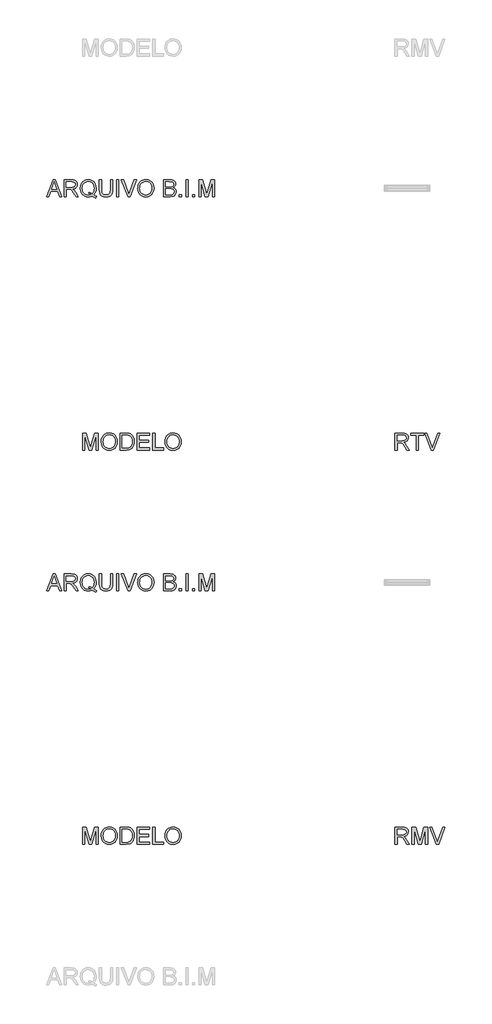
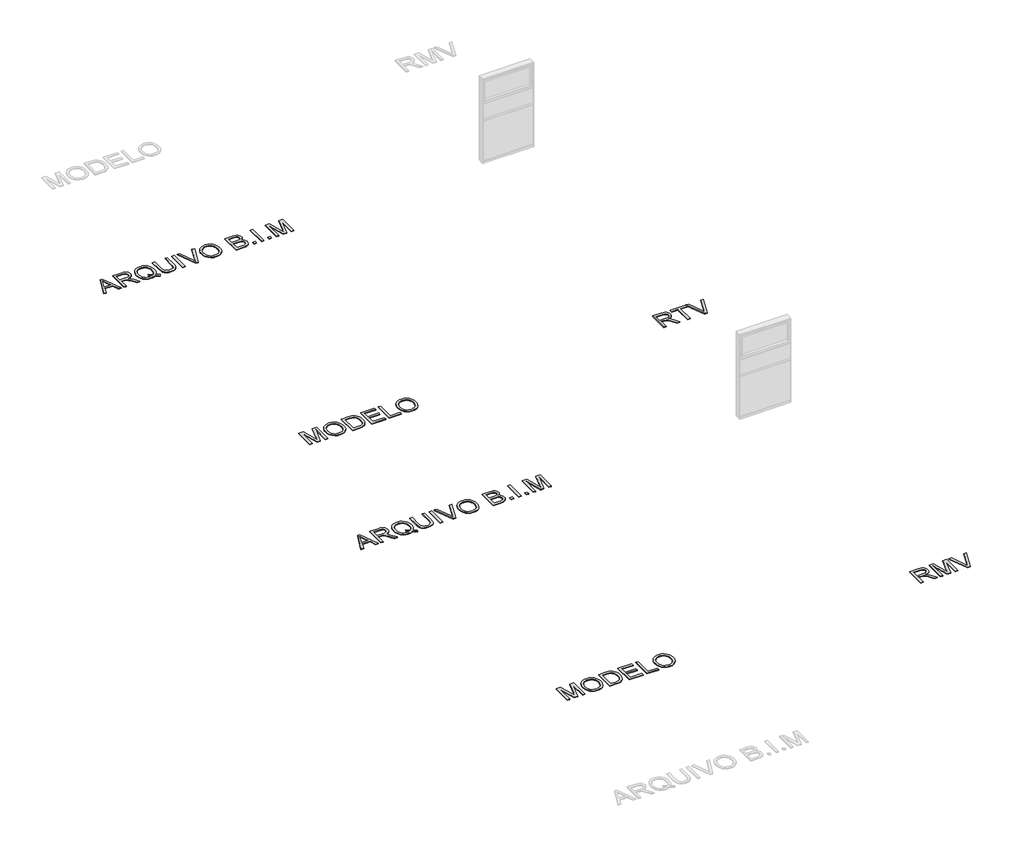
# One storey, part 7 of 15: 6 proxies.
"""IFC4 building model written with IfcOpenShell, lengths in millimetres."""

import ifcopenshell
import ifcopenshell.guid

model = None  # the IFC model being written
_history = None  # IfcOwnerHistory: only IFC2X3 demands one
_inside = {}  # id of a spatial element -> (the spatial element, [elements in it])
_under = {}  # id of a project, library or spatial element -> (it, [spatial elements below it])
_declared = {}  # id of a project -> (the project, [libraries it declares])
_typed = {}  # id of a type object -> (the type object, [elements of that type])
_made_of = {}  # id of a material, layer set ... -> (it, [elements and type objects made of it])


def new_model(schema):
    """Start an empty IFC model of exactly this schema.

    Asked for "IFC4X3", IfcOpenShell would pick the latest addendum, in which some entities
    have other attributes; the version numbers below select the first issue.
    IFC2X3 requires an IfcOwnerHistory on every rooted entity: one is made here for all.
    """
    global model, _history
    if schema == "IFC4X3":
        model = ifcopenshell.file(schema_version=(4, 3, 0, 0))
    else:
        model = ifcopenshell.file(schema=schema)
    _inside.clear()
    _under.clear()
    _declared.clear()
    _typed.clear()
    _made_of.clear()
    _history = None
    if model.schema == "IFC2X3":
        org = make("IfcOrganization", Name="unknown")
        user = make(
            "IfcPersonAndOrganization",
            ThePerson=make("IfcPerson", FamilyName="unknown"),
            TheOrganization=org,
        )
        app = make(
            "IfcApplication",
            ApplicationDeveloper=org,
            Version="unknown",
            ApplicationFullName="unknown",
            ApplicationIdentifier="unknown",
        )
        _history = make(
            "IfcOwnerHistory",
            OwningUser=user,
            OwningApplication=app,
            ChangeAction="ADDED",
            CreationDate=0,
        )
    return model


def make(cls, **values):
    """One entity of the class cls with the attributes given. An attribute that is None is left unset."""
    return model.create_entity(
        cls, **{name: value for name, value in values.items() if value is not None}
    )


def rooted(cls, **values):
    """An entity with a GlobalId (a new one), such as an element, a storey or a relation."""
    return make(cls, GlobalId=ifcopenshell.guid.new(), OwnerHistory=_history, **values)


def si_unit(unit_type, name, prefix=None):
    """IfcSIUnit, for example si_unit("LENGTHUNIT", "METRE", prefix="MILLI")."""
    return make("IfcSIUnit", UnitType=unit_type, Prefix=prefix, Name=name)


def assignment(units):
    """IfcUnitAssignment: the units of a project."""
    return None if units is None else make("IfcUnitAssignment", Units=units)


def point(xyz):
    """IfcCartesianPoint."""
    return None if xyz is None else make("IfcCartesianPoint", Coordinates=xyz)


def direction(xyz):
    """IfcDirection."""
    return None if xyz is None else make("IfcDirection", DirectionRatios=xyz)


def frame(location, z_axis=None, x_axis=None):
    """IfcAxis2Placement3D, a coordinate frame: its origin and axes. An axis left out is left unset."""
    return make(
        "IfcAxis2Placement3D",
        Location=point(location),
        Axis=direction(z_axis),
        RefDirection=direction(x_axis),
    )


def origin():
    """The frame at (0, 0, 0) with its axes left unset."""
    return frame((0.0, 0.0, 0.0))


def origin_with_axes():
    """The frame at (0, 0, 0) with the z axis (0, 0, 1) and the x axis (1, 0, 0) written out."""
    return frame((0.0, 0.0, 0.0), z_axis=(0.0, 0.0, 1.0), x_axis=(1.0, 0.0, 0.0))


def place(relative_to, where):
    """IfcLocalPlacement: puts the frame where relative to a parent placement (None: the world)."""
    return make(
        "IfcLocalPlacement", PlacementRelTo=relative_to, RelativePlacement=where
    )


def context(
    kind, dimensions, precision=None, world=None, true_north=None, identifier=None
):
    """IfcGeometricRepresentationContext, for example the 3D "Model" context."""
    return make(
        "IfcGeometricRepresentationContext",
        ContextIdentifier=identifier,
        ContextType=kind,
        CoordinateSpaceDimension=dimensions,
        Precision=precision,
        WorldCoordinateSystem=world,
        TrueNorth=true_north,
    )


def project(units=None, contexts=None):
    """IfcProject with its units and contexts."""
    return rooted(
        "IfcProject",
        Name="project",
        RepresentationContexts=contexts,
        UnitsInContext=assignment(units),
    )


def spatial(cls, under=None, at=None, **own):
    """A site, building, storey or space (cls), placed at a placement, below another one or the project."""
    s = rooted(cls, ObjectPlacement=at, **own)
    if under is not None:
        _under.setdefault(under.id(), (under, []))[1].append(s)
    return s


def polyline(points):
    """IfcPolyline through the points."""
    return make("IfcPolyline", Points=[point(p) for p in points])


def outline(outer, holes=None, kind="AREA"):
    """IfcArbitraryClosedProfileDef: a profile drawn as a closed curve; with holes, ...WithVoids."""
    if holes is None:
        return make("IfcArbitraryClosedProfileDef", ProfileType=kind, OuterCurve=outer)
    return make(
        "IfcArbitraryProfileDefWithVoids",
        ProfileType=kind,
        OuterCurve=outer,
        InnerCurves=holes,
    )


def extrude(swept, where, along, depth):
    """IfcExtrudedAreaSolid: the profile swept, set in the frame where, extruded along a direction by depth."""
    return make(
        "IfcExtrudedAreaSolid",
        SweptArea=swept,
        Position=where,
        ExtrudedDirection=direction(along),
        Depth=depth,
    )


def shape(context_of_items, identifier, shape_type, items):
    """IfcShapeRepresentation: the items that make up one representation, for example the "Body"."""
    return make(
        "IfcShapeRepresentation",
        ContextOfItems=context_of_items,
        RepresentationIdentifier=identifier,
        RepresentationType=shape_type,
        Items=items,
    )


def made_of(thing, what):
    """Note that an element or type object is made of a material, layer set ...; save() writes the relation."""
    if what is not None:
        _made_of.setdefault(what.id(), (what, []))[1].append(thing)
    return thing


def element(
    cls,
    number,
    at=None,
    inside=None,
    cuts=None,
    type_object=None,
    material=None,
    context=None,
    identifier="Body",
    shape_type=None,
    held_by="IfcProductDefinitionShape",
    body=None,
    shapes=None,
    **own,
):
    """One element of the class cls, such as IfcWall. Its Tag is "e" and its number.

    at: its placement. inside: the storey or other place that contains it. cuts: it is an
    opening in that element (IfcRelVoidsElement). A single representation is given by context,
    identifier, shape_type and body (its items); several are given by shapes. held_by: the class
    of the entity that holds the representations. save() writes the other relations.
    """
    e = rooted(cls, Tag="e%d" % number, ObjectPlacement=at, **own)
    if body is not None:
        shapes = [shape(context, identifier, shape_type, body)]
    if shapes is not None:
        e.Representation = make(held_by, Representations=shapes)
    if inside is not None:
        _inside.setdefault(inside.id(), (inside, []))[1].append(e)
    if cuts is not None:
        rooted(
            "IfcRelVoidsElement", RelatingBuildingElement=cuts, RelatedOpeningElement=e
        )
    if type_object is not None:
        _typed.setdefault(type_object.id(), (type_object, []))[1].append(e)
    return made_of(e, material)


def aggregate(whole, parts):
    """IfcRelAggregates: a whole, such as a stair, and the parts it consists of."""
    return rooted("IfcRelAggregates", RelatingObject=whole, RelatedObjects=parts)


def save(model, path):
    """Write the relations noted so far, then the file.

    IfcRelAggregates (storeys below a building ...), IfcRelContainedInSpatialStructure (elements
    in a storey), IfcRelDefinesByType, IfcRelAssociatesMaterial and IfcRelDeclares: one each for
    every whole, place, type object, material and project.
    """
    for whole, parts in _under.values():
        aggregate(whole, parts)
    for where, things in _inside.values():
        rooted(
            "IfcRelContainedInSpatialStructure",
            RelatedElements=things,
            RelatingStructure=where,
        )
    for kind, things in _typed.values():
        rooted("IfcRelDefinesByType", RelatedObjects=things, RelatingType=kind)
    for what, things in _made_of.values():
        rooted("IfcRelAssociatesMaterial", RelatedObjects=things, RelatingMaterial=what)
    for by, libraries in _declared.values():
        rooted("IfcRelDeclares", RelatingContext=by, RelatedDefinitions=libraries)
    model.write(path)


model = new_model("IFC4")

# Units and contexts
model_context = context("Model", 3, world=origin())
ifc_project = project(units=[si_unit("LENGTHUNIT", "METRE", prefix="MILLI")], contexts=[model_context])

# Site, building, storey
site = spatial("IfcSite", under=ifc_project)
building = spatial("IfcBuilding", under=site)
storey = spatial("IfcBuildingStorey", under=building, Name="Marelli - Linha REASONS - Planta Baixa", Elevation=0.0)

# Proxies
placement = place(None, origin())
element("IfcBuildingElementProxy", 1, Name="300mm Arial", ObjectType="300mm Arial", at=placement, inside=storey, context=model_context, shape_type="SweptSolid", body=[
    extrude(outline(polyline([(9390.580402, -91280.5663201), (9510.8778144, -90979.1973896), (9542.9571244, -90979.1973896), (9663.2545368, -91280.5663201), (9623.449705, -91280.5663201), (9588.9423738, -91186.3885293), (9464.8189886, -91186.3885293), (9430.3852339, -91280.5663201), (9390.580402, -91280.5663201)]), holes=[polyline([(9478.6513517, -91148.717413), (9575.1835872, -91148.717413), (9548.0338959, -91074.6259792), (9526.9174694, -91016.8685059), (9508.1554877, -91068.1512561), (9478.6513517, -91148.717413)])]), origin_with_axes(), (0.0, 0.0, 1.0), 10.0),
    extrude(outline(polyline([(9703.5008271, -91280.5663201), (9703.5008271, -90979.1973896), (9833.3631714, -90979.1973896), (9868.2659757, -90981.2299376), (9893.6590304, -90987.3275817), (9912.2186771, -90998.5847708), (9926.6212572, -91016.0959537), (9935.8642923, -91037.8101885), (9938.945304, -91061.6765329), (9933.8409413, -91091.3646099), (9918.5278533, -91115.9759154), (9906.9280741, -91126.0052983), (9892.5461874, -91134.0205273), (9855.4360911, -91144.0085235), (9876.8468232, -91160.1217548), (9907.3810288, -91198.8965171), (9957.6337094, -91280.5663201), (9913.855752, -91280.5663201), (9874.6395313, -91218.0999573), (9846.3126176, -91176.750021), (9826.4102017, -91157.2154871), (9808.4943485, -91150.0417882), (9786.642158, -91148.717413), (9741.1719434, -91148.717413), (9741.1719434, -91280.5663201), (9703.5008271, -91280.5663201)]), holes=[polyline([(9741.1719434, -91111.0462967), (9825.4904967, -91111.0462967), (9849.706329, -91109.7127245), (9868.4959019, -91105.7120078), (9882.6409647, -91098.7774322), (9892.9232664, -91088.6422832), (9899.1864574, -91076.3826157), (9901.2741877, -91063.0744845), (9897.2918651, -91044.6987789), (9885.3448973, -91029.8915286), (9864.7894908, -91020.1242616), (9834.9818522, -91016.8685059), (9741.1719434, -91016.8685059), (9741.1719434, -91111.0462967)])]), origin_with_axes(), (0.0, 0.0, 1.0), 10.0),
    extrude(outline(polyline([(10231.2643374, -91244.4403081), (10255.5997314, -91263.036743), (10277.9853508, -91275.8574305), (10267.8318077, -91303.4485802), (10236.7641732, -91289.0460001), (10205.8069033, -91268.205485), (10170.9500843, -91281.0077785), (10132.5983863, -91285.2752096), (10094.0627473, -91280.3547879), (10059.2427164, -91265.5935229), (10030.0788713, -91241.9203165), (10008.5117893, -91210.2640708), (9995.185264, -91172.3630282), (9990.7430889, -91129.9554312), (9995.176067, -91087.511046), (10008.4750011, -91049.0581805), (10029.9593096, -91016.9512794), (10058.9484108, -90993.5447874), (10093.639683, -90979.2525719), (10132.2305043, -90974.4885001), (10171.1248282, -90979.3629365), (10205.9908443, -90993.9862458), (10234.9339603, -91017.3835407), (10256.0595839, -91048.5799339), (10268.9722419, -91085.9199564), (10273.2764612, -91127.7481393), (10270.6644991, -91162.5313819), (10262.8286126, -91193.5990164), (10249.7136194, -91220.9142546), (10231.2643374, -91244.4403081)]), holes=[polyline([(10142.9726585, -91194.3347804), (10174.6472983, -91206.3093393), (10200.215097, -91222.9559996), (10215.6983305, -91205.4816049), (10226.7577829, -91184.1076609), (10233.3934544, -91158.8341679), (10235.6053449, -91129.6611256), (10232.478348, -91096.5057608), (10223.0973571, -91067.8201623), (10207.6922985, -91044.3308969), (10186.4930986, -91026.7645316), (10160.934497, -91015.8108452), (10132.4512335, -91012.1596164), (10110.966925, -91014.0059242), (10091.3956028, -91019.5448474), (10073.7372671, -91028.7763863), (10057.9919177, -91041.7005406), (10045.0516685, -91058.2897193), (10035.8086334, -91078.5163313), (10030.2628123, -91102.3803764), (10028.4142052, -91129.8818548), (10030.2421189, -91156.6659634), (10035.7258599, -91180.1437324), (10044.8654282, -91200.3151621), (10057.6608239, -91217.1802523), (10073.2981079, -91230.4906827), (10090.9633415, -91239.9981331), (10110.6565245, -91245.7026032), (10132.3776571, -91247.6040933), (10153.2917485, -91245.6727128), (10172.918253, -91239.8785714), (10153.6228423, -91229.853787), (10133.2605739, -91223.1767288), (10142.9726585, -91194.3347804)])]), origin_with_axes(), (0.0, 0.0, 1.0), 10.0),
    extrude(outline(polyline([(10527.5564963, -90979.1973896), (10565.2276126, -90979.1973896), (10565.2276126, -91153.0584205), (10562.6708327, -91193.7737604), (10555.0004931, -91225.1265034), (10540.6714894, -91249.3147446), (10518.1387172, -91268.5365788), (10487.3469942, -91281.0905519), (10448.2411381, -91285.2752096), (10409.9906077, -91281.6331779), (10379.4104168, -91270.7070826), (10356.4913685, -91252.8740029), (10341.2242657, -91228.5110178), (10332.6434182, -91195.8338995), (10329.7831357, -91153.0584205), (10329.7831357, -90979.1973896), (10367.454252, -90979.1973896), (10367.454252, -91151.7340454), (10369.3120561, -91185.588386), (10374.8854683, -91209.1604248), (10384.9838291, -91225.4851883), (10400.4164788, -91237.597703), (10420.5396239, -91245.1024957), (10444.709471, -91247.6040933), (10483.0243808, -91242.6560805), (10497.3671801, -91236.4710644), (10508.500209, -91227.812042), (10516.8373347, -91215.6351479), (10522.7924245, -91198.8965171), (10527.5564963, -91151.7340454), (10527.5564963, -90979.1973896)])), origin_with_axes(), (0.0, 0.0, 1.0), 10.0),
    extrude(outline(polyline([(10635.8609557, -91280.5663201), (10635.8609557, -90979.1973896), (10673.532072, -90979.1973896), (10673.532072, -91280.5663201), (10635.8609557, -91280.5663201)])), origin_with_axes(), (0.0, 0.0, 1.0), 10.0),
    extrude(outline(polyline([(10837.9017474, -91280.5663201), (10717.972217, -90979.1973896), (10758.2920837, -90979.1973896), (10838.563935, -91196.3213432), (10854.8243192, -91245.2496485), (10870.8639742, -91196.3213432), (10951.3565547, -90979.1973896), (10991.6764214, -90979.1973896), (10876.8236625, -91280.5663201), (10837.9017474, -91280.5663201)])), origin_with_axes(), (0.0, 0.0, 1.0), 10.0),
    extrude(outline(polyline([(11012.5721187, -91133.8549804), (11015.0829134, -91098.5061192), (11022.6152972, -91067.213157), (11035.1692703, -91039.9760937), (11052.7448326, -91016.7949295), (11074.288922, -90998.2858666), (11098.7484761, -90985.0651074), (11126.1234951, -90977.1326519), (11156.4139789, -90974.4885001), (11195.9428992, -90979.454907), (11231.3883295, -90994.3541278), (11260.8188891, -91018.1376988), (11282.3031976, -91049.7571563), (11295.4365848, -91087.68579), (11299.8143806, -91130.3968896), (11295.2066586, -91173.6782064), (11281.3834926, -91212.140269), (11259.1082378, -91243.8149088), (11229.1442493, -91266.733957), (11194.0023217, -91280.6398965), (11156.1932497, -91285.2752096), (11116.057324, -91280.1524528), (11080.4095587, -91264.7841825), (11051.0525754, -91240.5591531), (11029.7889961, -91208.8661192), (11016.8763381, -91172.3998164), (11012.5721187, -91133.8549804)]), holes=[polyline([(11050.2432351, -91134.2228624), (11052.126331, -91159.1974513), (11057.7756189, -91181.3669401), (11067.1910987, -91200.7313286), (11080.3727705, -91217.2906169), (11096.3963306, -91230.5527628), (11114.3374757, -91240.0257242), (11134.1962056, -91245.709501), (11155.9725205, -91247.6040933), (11178.1213158, -91245.6911069), (11198.2145706, -91239.9521478), (11216.2522846, -91230.3872159), (11232.2344581, -91216.9963113), (11245.3195608, -91200.0875351), (11254.6660627, -91179.9689885), (11260.2739639, -91156.6406715), (11262.1432643, -91130.102584), (11258.9426909, -91096.7540812), (11249.3409708, -91067.9305269), (11233.5864244, -91044.358488), (11211.9273719, -91026.7645316), (11185.7985532, -91015.8108452), (11156.6347081, -91012.1596164), (11135.6148506, -91013.9185522), (11116.1125063, -91019.1953595), (11098.1276752, -91027.9900385), (11081.6603574, -91040.302589), (11067.9153664, -91056.7262208), (11058.0975156, -91077.8541437), (11052.2068052, -91103.6863575), (11050.2432351, -91134.2228624)])]), origin_with_axes(), (0.0, 0.0, 1.0), 10.0),
    extrude(outline(polyline([(11469.334404, -91280.5663201), (11469.334404, -90979.1973896), (11584.3343156, -90979.1973896), (11615.9629702, -90981.4138786), (11640.6570491, -90988.0633457), (11659.5845778, -90999.3113377), (11673.9135815, -91015.3234015), (11682.9358874, -91034.1589597), (11685.9433227, -91053.8774346), (11683.414134, -91072.0232141), (11675.8265679, -91089.0837416), (11663.125442, -91104.0105535), (11645.2555741, -91115.7551862), (11666.6019268, -91126.9020107), (11682.3748674, -91143.8613707), (11692.1145432, -91165.5112261), (11695.3611018, -91190.7295368), (11693.1446128, -91211.7447958), (11686.4951457, -91231.2333445), (11676.5715289, -91247.8064284), (11664.5325906, -91260.0752929), (11649.7897196, -91268.9596431), (11631.7543048, -91275.3791839), (11583.4513989, -91280.5663201), (11469.334404, -91280.5663201)]), holes=[polyline([(11507.0055203, -91101.6285176), (11575.7994534, -91101.6285176), (11615.9721672, -91098.3911561), (11630.0344565, -91092.8085468), (11640.1420143, -91084.4484284), (11646.2396584, -91073.4395597), (11648.2722064, -91059.9106994), (11646.3776141, -91046.7773121), (11640.6938373, -91035.3361821), (11631.4783933, -91026.4058467), (11618.9887996, -91020.8048433), (11570.575529, -91016.8685059), (11507.0055203, -91016.8685059), (11507.0055203, -91101.6285176)]), polyline([(11507.0055203, -91242.8952038), (11584.2607393, -91242.8952038), (11612.2197709, -91241.4236758), (11635.8745832, -91233.2199073), (11651.5463562, -91216.4812765), (11656.1540782, -91204.6538704), (11657.6899855, -91191.0974188), (11655.8873637, -91175.3520694), (11650.4794984, -91161.814012), (11641.0341282, -91151.2282076), (11627.1189917, -91144.3396173), (11607.4097138, -91140.5596298), (11580.5819193, -91139.2996339), (11507.0055203, -91139.2996339), (11507.0055203, -91242.8952038)])]), origin_with_axes(), (0.0, 0.0, 1.0), 10.0),
    extrude(outline(polyline([(11751.8677763, -91280.5663201), (11751.8677763, -91242.8952038), (11789.5388926, -91242.8952038), (11789.5388926, -91280.5663201), (11751.8677763, -91280.5663201)])), origin_with_axes(), (0.0, 0.0, 1.0), 10.0),
    extrude(outline(polyline([(11869.5900147, -91280.5663201), (11869.5900147, -90979.1973896), (11907.261131, -90979.1973896), (11907.261131, -91280.5663201), (11869.5900147, -91280.5663201)])), origin_with_axes(), (0.0, 0.0, 1.0), 10.0),
    extrude(outline(polyline([(11987.3122532, -91280.5663201), (11987.3122532, -91242.8952038), (12024.9833695, -91242.8952038), (12024.9833695, -91280.5663201), (11987.3122532, -91280.5663201)])), origin_with_axes(), (0.0, 0.0, 1.0), 10.0),
    extrude(outline(polyline([(12100.3256021, -91280.5663201), (12100.3256021, -90979.1973896), (12165.1464096, -90979.1973896), (12226.803432, -91191.6124536), (12239.2378435, -91235.9790223), (12252.7023245, -91187.9336337), (12313.3292773, -90979.1973896), (12378.1500848, -90979.1973896), (12378.1500848, -91280.5663201), (12340.4789685, -91280.5663201), (12340.4789685, -91016.8685059), (12264.7688539, -91280.5663201), (12213.706833, -91280.5663201), (12137.9967184, -91016.8685059), (12137.9967184, -91280.5663201), (12100.3256021, -91280.5663201)])), origin_with_axes(), (0.0, 0.0, 1.0), 10.0),
])
element("IfcBuildingElementProxy", 2, Name="300mm Arial", ObjectType="300mm Arial", at=placement, inside=storey, context=model_context, shape_type="SweptSolid", body=[
    extrude(outline(polyline([(10033.1230948, -102780.5663201), (10033.1230948, -102479.1973896), (10097.9439023, -102479.1973896), (10159.6009247, -102691.6124536), (10172.0353362, -102735.9790223), (10185.4998172, -102687.9336337), (10246.12677, -102479.1973896), (10310.9475775, -102479.1973896), (10310.9475775, -102780.5663201), (10273.2764612, -102780.5663201), (10273.2764612, -102516.8685059), (10197.5663466, -102780.5663201), (10146.5043257, -102780.5663201), (10070.7942111, -102516.8685059), (10070.7942111, -102780.5663201), (10033.1230948, -102780.5663201)])), origin_with_axes(), (0.0, 0.0, 1.0), 10.0),
    extrude(outline(polyline([(10362.7453625, -102633.8549804), (10365.2561571, -102598.5061192), (10372.7885409, -102567.213157), (10385.342514, -102539.9760937), (10402.9180763, -102516.7949295), (10424.4621657, -102498.2858666), (10448.9217198, -102485.0651074), (10476.2967388, -102477.1326519), (10506.5872226, -102474.4885001), (10546.116143, -102479.454907), (10581.5615732, -102494.3541278), (10610.9921328, -102518.1376988), (10632.4764413, -102549.7571563), (10645.6098286, -102587.68579), (10649.9876243, -102630.3968896), (10645.3799023, -102673.6782064), (10631.5567363, -102712.140269), (10609.2814815, -102743.8149088), (10579.317493, -102766.733957), (10544.1755654, -102780.6398965), (10506.3664934, -102785.2752096), (10466.2305677, -102780.1524528), (10430.5828024, -102764.7841825), (10401.2258192, -102740.5591531), (10379.9622398, -102708.8661192), (10367.0495818, -102672.3998164), (10362.7453625, -102633.8549804)]), holes=[polyline([(10400.4164788, -102634.2228624), (10402.2995747, -102659.1974513), (10407.9488626, -102681.3669401), (10417.3643424, -102700.7313286), (10430.5460142, -102717.2906169), (10446.5695743, -102730.5527628), (10464.5107194, -102740.0257242), (10484.3694493, -102745.709501), (10506.1457642, -102747.6040933), (10528.2945596, -102745.6911069), (10548.3878143, -102739.9521478), (10566.4255284, -102730.3872159), (10582.4077018, -102716.9963113), (10595.4928045, -102700.0875351), (10604.8393064, -102679.9689885), (10610.4472076, -102656.6406715), (10612.316508, -102630.102584), (10609.1159346, -102596.7540812), (10599.5142146, -102567.9305269), (10583.7596681, -102544.358488), (10562.1006157, -102526.7645316), (10535.9717969, -102515.8108452), (10506.8079518, -102512.1596164), (10485.7880943, -102513.9185522), (10466.28575, -102519.1953595), (10448.300919, -102527.9900385), (10431.8336012, -102540.302589), (10418.0886101, -102556.7262208), (10408.2707594, -102577.8541437), (10402.3800489, -102603.6863575), (10400.4164788, -102634.2228624)])]), origin_with_axes(), (0.0, 0.0, 1.0), 10.0),
    extrude(outline(polyline([(10701.7854092, -102780.5663201), (10701.7854092, -102479.1973896), (10805.7488611, -102479.1973896), (10859.5332088, -102483.5383972), (10883.555903, -102491.9077126), (10903.826201, -102505.0962821), (10924.666716, -102528.0521186), (10939.5107545, -102556.5997614), (10948.3951047, -102590.1873876), (10951.3565547, -102628.2631741), (10949.3515979, -102660.6091985), (10943.3367273, -102689.0740679), (10934.1764656, -102713.3082943), (10922.7353355, -102732.9623899), (10909.5651601, -102748.477813), (10895.2177623, -102760.2960221), (10878.745846, -102769.0608107), (10859.202115, -102775.4159721), (10810.7520562, -102780.5663201), (10701.7854092, -102780.5663201)]), holes=[polyline([(10739.4565255, -102742.8952038), (10806.1167431, -102742.8952038), (10833.6894986, -102741.5340404), (10854.60359, -102737.4505502), (10870.3857276, -102730.8838566), (10882.5626217, -102722.0730828), (10895.6500236, -102705.7667134), (10905.48167, -102684.6594839), (10911.6344963, -102658.6594239), (10913.6854384, -102627.6745629), (10909.6663276, -102586.6189322), (10897.6089953, -102556.3054558), (10879.7943096, -102535.4833349), (10858.5031392, -102522.9017706), (10836.8348897, -102518.3768221), (10805.0866735, -102516.8685059), (10739.4565255, -102516.8685059), (10739.4565255, -102742.8952038)])]), origin_with_axes(), (0.0, 0.0, 1.0), 10.0),
    extrude(outline(polyline([(11003.1543397, -102780.5663201), (11003.1543397, -102479.1973896), (11219.7632584, -102479.1973896), (11219.7632584, -102516.8685059), (11040.825456, -102516.8685059), (11040.825456, -102606.3374072), (11210.3454794, -102606.3374072), (11210.3454794, -102644.0085235), (11040.825456, -102644.0085235), (11040.825456, -102742.8952038), (11224.472148, -102742.8952038), (11224.472148, -102780.5663201), (11003.1543397, -102780.5663201)])), origin_with_axes(), (0.0, 0.0, 1.0), 10.0),
    extrude(outline(polyline([(11280.9788224, -102780.5663201), (11280.9788224, -102479.1973896), (11318.6499387, -102479.1973896), (11318.6499387, -102742.8952038), (11469.334404, -102742.8952038), (11469.334404, -102780.5663201), (11280.9788224, -102780.5663201)])), origin_with_axes(), (0.0, 0.0, 1.0), 10.0),
    extrude(outline(polyline([(11497.5877412, -102633.8549804), (11500.0985358, -102598.5061192), (11507.6309197, -102567.213157), (11520.1848927, -102539.9760937), (11537.7604551, -102516.7949295), (11559.3045444, -102498.2858666), (11583.7640986, -102485.0651074), (11611.1391175, -102477.1326519), (11641.4296013, -102474.4885001), (11680.9585217, -102479.454907), (11716.4039519, -102494.3541278), (11745.8345115, -102518.1376988), (11767.3188201, -102549.7571563), (11780.4522073, -102587.68579), (11784.830003, -102630.3968896), (11780.222281, -102673.6782064), (11766.3991151, -102712.140269), (11744.1238603, -102743.8149088), (11714.1598717, -102766.733957), (11679.0179442, -102780.6398965), (11641.2088721, -102785.2752096), (11601.0729464, -102780.1524528), (11565.4251811, -102764.7841825), (11536.0681979, -102740.5591531), (11514.8046186, -102708.8661192), (11501.8919605, -102672.3998164), (11497.5877412, -102633.8549804)]), holes=[polyline([(11535.2588575, -102634.2228624), (11537.1419535, -102659.1974513), (11542.7912413, -102681.3669401), (11552.2067212, -102700.7313286), (11565.3883929, -102717.2906169), (11581.4119531, -102730.5527628), (11599.3530981, -102740.0257242), (11619.2118281, -102745.709501), (11640.9881429, -102747.6040933), (11663.1369383, -102745.6911069), (11683.230193, -102739.9521478), (11701.2679071, -102730.3872159), (11717.2500805, -102716.9963113), (11730.3351832, -102700.0875351), (11739.6816852, -102679.9689885), (11745.2895863, -102656.6406715), (11747.1588867, -102630.102584), (11743.9583134, -102596.7540812), (11734.3565933, -102567.9305269), (11718.6020468, -102544.358488), (11696.9429944, -102526.7645316), (11670.8141757, -102515.8108452), (11641.6503305, -102512.1596164), (11620.630473, -102513.9185522), (11601.1281287, -102519.1953595), (11583.1432977, -102527.9900385), (11566.6759799, -102540.302589), (11552.9309888, -102556.7262208), (11543.1131381, -102577.8541437), (11537.2224276, -102603.6863575), (11535.2588575, -102634.2228624)])]), origin_with_axes(), (0.0, 0.0, 1.0), 10.0),
])
element("IfcBuildingElementProxy", 3, Name="300mm Arial", ObjectType="300mm Arial", at=placement, inside=storey, context=model_context, shape_type="SweptSolid", body=[
    extrude(outline(polyline([(9390.580402, -98280.5663201), (9510.8778144, -97979.1973896), (9542.9571244, -97979.1973896), (9663.2545368, -98280.5663201), (9623.449705, -98280.5663201), (9588.9423738, -98186.3885293), (9464.8189886, -98186.3885293), (9430.3852339, -98280.5663201), (9390.580402, -98280.5663201)]), holes=[polyline([(9478.6513517, -98148.717413), (9575.1835872, -98148.717413), (9548.0338959, -98074.6259792), (9526.9174694, -98016.8685059), (9508.1554877, -98068.1512561), (9478.6513517, -98148.717413)])]), origin_with_axes(), (0.0, 0.0, 1.0), 10.0),
    extrude(outline(polyline([(9703.5008271, -98280.5663201), (9703.5008271, -97979.1973896), (9833.3631714, -97979.1973896), (9868.2659757, -97981.2299376), (9893.6590304, -97987.3275817), (9912.2186771, -97998.5847708), (9926.6212572, -98016.0959537), (9935.8642923, -98037.8101885), (9938.945304, -98061.6765329), (9933.8409413, -98091.3646099), (9918.5278533, -98115.9759154), (9906.9280741, -98126.0052983), (9892.5461874, -98134.0205273), (9855.4360911, -98144.0085235), (9876.8468232, -98160.1217548), (9907.3810288, -98198.8965171), (9957.6337094, -98280.5663201), (9913.855752, -98280.5663201), (9874.6395313, -98218.0999573), (9846.3126176, -98176.750021), (9826.4102017, -98157.2154871), (9808.4943485, -98150.0417882), (9786.642158, -98148.717413), (9741.1719434, -98148.717413), (9741.1719434, -98280.5663201), (9703.5008271, -98280.5663201)]), holes=[polyline([(9741.1719434, -98111.0462967), (9825.4904967, -98111.0462967), (9849.706329, -98109.7127245), (9868.4959019, -98105.7120078), (9882.6409647, -98098.7774322), (9892.9232664, -98088.6422832), (9899.1864574, -98076.3826157), (9901.2741877, -98063.0744845), (9897.2918651, -98044.6987789), (9885.3448973, -98029.8915286), (9864.7894908, -98020.1242616), (9834.9818522, -98016.8685059), (9741.1719434, -98016.8685059), (9741.1719434, -98111.0462967)])]), origin_with_axes(), (0.0, 0.0, 1.0), 10.0),
    extrude(outline(polyline([(10231.2643374, -98244.4403081), (10255.5997314, -98263.036743), (10277.9853508, -98275.8574305), (10267.8318077, -98303.4485802), (10236.7641732, -98289.0460001), (10205.8069033, -98268.205485), (10170.9500843, -98281.0077785), (10132.5983863, -98285.2752096), (10094.0627473, -98280.3547879), (10059.2427164, -98265.5935229), (10030.0788713, -98241.9203165), (10008.5117893, -98210.2640708), (9995.185264, -98172.3630282), (9990.7430889, -98129.9554312), (9995.176067, -98087.511046), (10008.4750011, -98049.0581805), (10029.9593096, -98016.9512794), (10058.9484108, -97993.5447874), (10093.639683, -97979.2525719), (10132.2305043, -97974.4885001), (10171.1248282, -97979.3629365), (10205.9908443, -97993.9862458), (10234.9339603, -98017.3835407), (10256.0595839, -98048.5799339), (10268.9722419, -98085.9199564), (10273.2764612, -98127.7481393), (10270.6644991, -98162.5313819), (10262.8286126, -98193.5990164), (10249.7136194, -98220.9142546), (10231.2643374, -98244.4403081)]), holes=[polyline([(10142.9726585, -98194.3347804), (10174.6472983, -98206.3093393), (10200.215097, -98222.9559996), (10215.6983305, -98205.4816049), (10226.7577829, -98184.1076609), (10233.3934544, -98158.8341679), (10235.6053449, -98129.6611256), (10232.478348, -98096.5057608), (10223.0973571, -98067.8201623), (10207.6922985, -98044.3308969), (10186.4930986, -98026.7645316), (10160.934497, -98015.8108452), (10132.4512335, -98012.1596164), (10110.966925, -98014.0059242), (10091.3956028, -98019.5448474), (10073.7372671, -98028.7763863), (10057.9919177, -98041.7005406), (10045.0516685, -98058.2897193), (10035.8086334, -98078.5163313), (10030.2628123, -98102.3803764), (10028.4142052, -98129.8818548), (10030.2421189, -98156.6659634), (10035.7258599, -98180.1437324), (10044.8654282, -98200.3151621), (10057.6608239, -98217.1802523), (10073.2981079, -98230.4906827), (10090.9633415, -98239.9981331), (10110.6565245, -98245.7026032), (10132.3776571, -98247.6040933), (10153.2917485, -98245.6727128), (10172.918253, -98239.8785714), (10153.6228423, -98229.853787), (10133.2605739, -98223.1767288), (10142.9726585, -98194.3347804)])]), origin_with_axes(), (0.0, 0.0, 1.0), 10.0),
    extrude(outline(polyline([(10527.5564963, -97979.1973896), (10565.2276126, -97979.1973896), (10565.2276126, -98153.0584205), (10562.6708327, -98193.7737604), (10555.0004931, -98225.1265034), (10540.6714894, -98249.3147446), (10518.1387172, -98268.5365788), (10487.3469942, -98281.0905519), (10448.2411381, -98285.2752096), (10409.9906077, -98281.6331779), (10379.4104168, -98270.7070826), (10356.4913685, -98252.8740029), (10341.2242657, -98228.5110178), (10332.6434182, -98195.8338995), (10329.7831357, -98153.0584205), (10329.7831357, -97979.1973896), (10367.454252, -97979.1973896), (10367.454252, -98151.7340454), (10369.3120561, -98185.588386), (10374.8854683, -98209.1604248), (10384.9838291, -98225.4851883), (10400.4164788, -98237.597703), (10420.5396239, -98245.1024957), (10444.709471, -98247.6040933), (10483.0243808, -98242.6560805), (10497.3671801, -98236.4710644), (10508.500209, -98227.812042), (10516.8373347, -98215.6351479), (10522.7924245, -98198.8965171), (10527.5564963, -98151.7340454), (10527.5564963, -97979.1973896)])), origin_with_axes(), (0.0, 0.0, 1.0), 10.0),
    extrude(outline(polyline([(10635.8609557, -98280.5663201), (10635.8609557, -97979.1973896), (10673.532072, -97979.1973896), (10673.532072, -98280.5663201), (10635.8609557, -98280.5663201)])), origin_with_axes(), (0.0, 0.0, 1.0), 10.0),
    extrude(outline(polyline([(10837.9017474, -98280.5663201), (10717.972217, -97979.1973896), (10758.2920837, -97979.1973896), (10838.563935, -98196.3213432), (10854.8243192, -98245.2496485), (10870.8639742, -98196.3213432), (10951.3565547, -97979.1973896), (10991.6764214, -97979.1973896), (10876.8236625, -98280.5663201), (10837.9017474, -98280.5663201)])), origin_with_axes(), (0.0, 0.0, 1.0), 10.0),
    extrude(outline(polyline([(11012.5721187, -98133.8549804), (11015.0829134, -98098.5061192), (11022.6152972, -98067.213157), (11035.1692703, -98039.9760937), (11052.7448326, -98016.7949295), (11074.288922, -97998.2858666), (11098.7484761, -97985.0651074), (11126.1234951, -97977.1326519), (11156.4139789, -97974.4885001), (11195.9428992, -97979.454907), (11231.3883295, -97994.3541278), (11260.8188891, -98018.1376988), (11282.3031976, -98049.7571563), (11295.4365848, -98087.68579), (11299.8143806, -98130.3968896), (11295.2066586, -98173.6782064), (11281.3834926, -98212.140269), (11259.1082378, -98243.8149088), (11229.1442493, -98266.733957), (11194.0023217, -98280.6398965), (11156.1932497, -98285.2752096), (11116.057324, -98280.1524528), (11080.4095587, -98264.7841825), (11051.0525754, -98240.5591531), (11029.7889961, -98208.8661192), (11016.8763381, -98172.3998164), (11012.5721187, -98133.8549804)]), holes=[polyline([(11050.2432351, -98134.2228624), (11052.126331, -98159.1974513), (11057.7756189, -98181.3669401), (11067.1910987, -98200.7313286), (11080.3727705, -98217.2906169), (11096.3963306, -98230.5527628), (11114.3374757, -98240.0257242), (11134.1962056, -98245.709501), (11155.9725205, -98247.6040933), (11178.1213158, -98245.6911069), (11198.2145706, -98239.9521478), (11216.2522846, -98230.3872159), (11232.2344581, -98216.9963113), (11245.3195608, -98200.0875351), (11254.6660627, -98179.9689885), (11260.2739639, -98156.6406715), (11262.1432643, -98130.102584), (11258.9426909, -98096.7540812), (11249.3409708, -98067.9305269), (11233.5864244, -98044.358488), (11211.9273719, -98026.7645316), (11185.7985532, -98015.8108452), (11156.6347081, -98012.1596164), (11135.6148506, -98013.9185522), (11116.1125063, -98019.1953595), (11098.1276752, -98027.9900385), (11081.6603574, -98040.302589), (11067.9153664, -98056.7262208), (11058.0975156, -98077.8541437), (11052.2068052, -98103.6863575), (11050.2432351, -98134.2228624)])]), origin_with_axes(), (0.0, 0.0, 1.0), 10.0),
    extrude(outline(polyline([(11469.334404, -98280.5663201), (11469.334404, -97979.1973896), (11584.3343156, -97979.1973896), (11615.9629702, -97981.4138786), (11640.6570491, -97988.0633457), (11659.5845778, -97999.3113377), (11673.9135815, -98015.3234015), (11682.9358874, -98034.1589597), (11685.9433227, -98053.8774346), (11683.414134, -98072.0232141), (11675.8265679, -98089.0837416), (11663.125442, -98104.0105535), (11645.2555741, -98115.7551862), (11666.6019268, -98126.9020107), (11682.3748674, -98143.8613707), (11692.1145432, -98165.5112261), (11695.3611018, -98190.7295368), (11693.1446128, -98211.7447958), (11686.4951457, -98231.2333445), (11676.5715289, -98247.8064284), (11664.5325906, -98260.0752929), (11649.7897196, -98268.9596431), (11631.7543048, -98275.3791839), (11583.4513989, -98280.5663201), (11469.334404, -98280.5663201)]), holes=[polyline([(11507.0055203, -98101.6285176), (11575.7994534, -98101.6285176), (11615.9721672, -98098.3911561), (11630.0344565, -98092.8085468), (11640.1420143, -98084.4484284), (11646.2396584, -98073.4395597), (11648.2722064, -98059.9106994), (11646.3776141, -98046.7773121), (11640.6938373, -98035.3361821), (11631.4783933, -98026.4058467), (11618.9887996, -98020.8048433), (11570.575529, -98016.8685059), (11507.0055203, -98016.8685059), (11507.0055203, -98101.6285176)]), polyline([(11507.0055203, -98242.8952038), (11584.2607393, -98242.8952038), (11612.2197709, -98241.4236758), (11635.8745832, -98233.2199073), (11651.5463562, -98216.4812765), (11656.1540782, -98204.6538704), (11657.6899855, -98191.0974188), (11655.8873637, -98175.3520694), (11650.4794984, -98161.814012), (11641.0341282, -98151.2282076), (11627.1189917, -98144.3396173), (11607.4097138, -98140.5596298), (11580.5819193, -98139.2996339), (11507.0055203, -98139.2996339), (11507.0055203, -98242.8952038)])]), origin_with_axes(), (0.0, 0.0, 1.0), 10.0),
    extrude(outline(polyline([(11751.8677763, -98280.5663201), (11751.8677763, -98242.8952038), (11789.5388926, -98242.8952038), (11789.5388926, -98280.5663201), (11751.8677763, -98280.5663201)])), origin_with_axes(), (0.0, 0.0, 1.0), 10.0),
    extrude(outline(polyline([(11869.5900147, -98280.5663201), (11869.5900147, -97979.1973896), (11907.261131, -97979.1973896), (11907.261131, -98280.5663201), (11869.5900147, -98280.5663201)])), origin_with_axes(), (0.0, 0.0, 1.0), 10.0),
    extrude(outline(polyline([(11987.3122532, -98280.5663201), (11987.3122532, -98242.8952038), (12024.9833695, -98242.8952038), (12024.9833695, -98280.5663201), (11987.3122532, -98280.5663201)])), origin_with_axes(), (0.0, 0.0, 1.0), 10.0),
    extrude(outline(polyline([(12100.3256021, -98280.5663201), (12100.3256021, -97979.1973896), (12165.1464096, -97979.1973896), (12226.803432, -98191.6124536), (12239.2378435, -98235.9790223), (12252.7023245, -98187.9336337), (12313.3292773, -97979.1973896), (12378.1500848, -97979.1973896), (12378.1500848, -98280.5663201), (12340.4789685, -98280.5663201), (12340.4789685, -98016.8685059), (12264.7688539, -98280.5663201), (12213.706833, -98280.5663201), (12137.9967184, -98016.8685059), (12137.9967184, -98280.5663201), (12100.3256021, -98280.5663201)])), origin_with_axes(), (0.0, 0.0, 1.0), 10.0),
])
element("IfcBuildingElementProxy", 4, Name="300mm Arial", ObjectType="300mm Arial", at=placement, inside=storey, context=model_context, shape_type="SweptSolid", body=[
    extrude(outline(polyline([(10033.1230948, -95780.5663201), (10033.1230948, -95479.1973896), (10097.9439023, -95479.1973896), (10159.6009247, -95691.6124536), (10172.0353362, -95735.9790223), (10185.4998172, -95687.9336337), (10246.12677, -95479.1973896), (10310.9475775, -95479.1973896), (10310.9475775, -95780.5663201), (10273.2764612, -95780.5663201), (10273.2764612, -95516.8685059), (10197.5663466, -95780.5663201), (10146.5043257, -95780.5663201), (10070.7942111, -95516.8685059), (10070.7942111, -95780.5663201), (10033.1230948, -95780.5663201)])), origin_with_axes(), (0.0, 0.0, 1.0), 10.0),
    extrude(outline(polyline([(10362.7453625, -95633.8549804), (10365.2561571, -95598.5061192), (10372.7885409, -95567.213157), (10385.342514, -95539.9760937), (10402.9180763, -95516.7949295), (10424.4621657, -95498.2858666), (10448.9217198, -95485.0651074), (10476.2967388, -95477.1326519), (10506.5872226, -95474.4885001), (10546.116143, -95479.454907), (10581.5615732, -95494.3541278), (10610.9921328, -95518.1376988), (10632.4764413, -95549.7571563), (10645.6098286, -95587.68579), (10649.9876243, -95630.3968896), (10645.3799023, -95673.6782064), (10631.5567363, -95712.140269), (10609.2814815, -95743.8149088), (10579.317493, -95766.733957), (10544.1755654, -95780.6398965), (10506.3664934, -95785.2752096), (10466.2305677, -95780.1524528), (10430.5828024, -95764.7841825), (10401.2258192, -95740.5591531), (10379.9622398, -95708.8661192), (10367.0495818, -95672.3998164), (10362.7453625, -95633.8549804)]), holes=[polyline([(10400.4164788, -95634.2228624), (10402.2995747, -95659.1974513), (10407.9488626, -95681.3669401), (10417.3643424, -95700.7313286), (10430.5460142, -95717.2906169), (10446.5695743, -95730.5527628), (10464.5107194, -95740.0257242), (10484.3694493, -95745.709501), (10506.1457642, -95747.6040933), (10528.2945596, -95745.6911069), (10548.3878143, -95739.9521478), (10566.4255284, -95730.3872159), (10582.4077018, -95716.9963113), (10595.4928045, -95700.0875351), (10604.8393064, -95679.9689885), (10610.4472076, -95656.6406715), (10612.316508, -95630.102584), (10609.1159346, -95596.7540812), (10599.5142146, -95567.9305269), (10583.7596681, -95544.358488), (10562.1006157, -95526.7645316), (10535.9717969, -95515.8108452), (10506.8079518, -95512.1596164), (10485.7880943, -95513.9185522), (10466.28575, -95519.1953595), (10448.300919, -95527.9900385), (10431.8336012, -95540.302589), (10418.0886101, -95556.7262208), (10408.2707594, -95577.8541437), (10402.3800489, -95603.6863575), (10400.4164788, -95634.2228624)])]), origin_with_axes(), (0.0, 0.0, 1.0), 10.0),
    extrude(outline(polyline([(10701.7854092, -95780.5663201), (10701.7854092, -95479.1973896), (10805.7488611, -95479.1973896), (10859.5332088, -95483.5383972), (10883.555903, -95491.9077126), (10903.826201, -95505.0962821), (10924.666716, -95528.0521186), (10939.5107545, -95556.5997614), (10948.3951047, -95590.1873876), (10951.3565547, -95628.2631741), (10949.3515979, -95660.6091985), (10943.3367273, -95689.0740679), (10934.1764656, -95713.3082943), (10922.7353355, -95732.9623899), (10909.5651601, -95748.477813), (10895.2177623, -95760.2960221), (10878.745846, -95769.0608107), (10859.202115, -95775.4159721), (10810.7520562, -95780.5663201), (10701.7854092, -95780.5663201)]), holes=[polyline([(10739.4565255, -95742.8952038), (10806.1167431, -95742.8952038), (10833.6894986, -95741.5340404), (10854.60359, -95737.4505502), (10870.3857276, -95730.8838566), (10882.5626217, -95722.0730828), (10895.6500236, -95705.7667134), (10905.48167, -95684.6594839), (10911.6344963, -95658.6594239), (10913.6854384, -95627.6745629), (10909.6663276, -95586.6189322), (10897.6089953, -95556.3054558), (10879.7943096, -95535.4833349), (10858.5031392, -95522.9017706), (10836.8348897, -95518.3768221), (10805.0866735, -95516.8685059), (10739.4565255, -95516.8685059), (10739.4565255, -95742.8952038)])]), origin_with_axes(), (0.0, 0.0, 1.0), 10.0),
    extrude(outline(polyline([(11003.1543397, -95780.5663201), (11003.1543397, -95479.1973896), (11219.7632584, -95479.1973896), (11219.7632584, -95516.8685059), (11040.825456, -95516.8685059), (11040.825456, -95606.3374072), (11210.3454794, -95606.3374072), (11210.3454794, -95644.0085235), (11040.825456, -95644.0085235), (11040.825456, -95742.8952038), (11224.472148, -95742.8952038), (11224.472148, -95780.5663201), (11003.1543397, -95780.5663201)])), origin_with_axes(), (0.0, 0.0, 1.0), 10.0),
    extrude(outline(polyline([(11280.9788224, -95780.5663201), (11280.9788224, -95479.1973896), (11318.6499387, -95479.1973896), (11318.6499387, -95742.8952038), (11469.334404, -95742.8952038), (11469.334404, -95780.5663201), (11280.9788224, -95780.5663201)])), origin_with_axes(), (0.0, 0.0, 1.0), 10.0),
    extrude(outline(polyline([(11497.5877412, -95633.8549804), (11500.0985358, -95598.5061192), (11507.6309197, -95567.213157), (11520.1848927, -95539.9760937), (11537.7604551, -95516.7949295), (11559.3045444, -95498.2858666), (11583.7640986, -95485.0651074), (11611.1391175, -95477.1326519), (11641.4296013, -95474.4885001), (11680.9585217, -95479.454907), (11716.4039519, -95494.3541278), (11745.8345115, -95518.1376988), (11767.3188201, -95549.7571563), (11780.4522073, -95587.68579), (11784.830003, -95630.3968896), (11780.222281, -95673.6782064), (11766.3991151, -95712.140269), (11744.1238603, -95743.8149088), (11714.1598717, -95766.733957), (11679.0179442, -95780.6398965), (11641.2088721, -95785.2752096), (11601.0729464, -95780.1524528), (11565.4251811, -95764.7841825), (11536.0681979, -95740.5591531), (11514.8046186, -95708.8661192), (11501.8919605, -95672.3998164), (11497.5877412, -95633.8549804)]), holes=[polyline([(11535.2588575, -95634.2228624), (11537.1419535, -95659.1974513), (11542.7912413, -95681.3669401), (11552.2067212, -95700.7313286), (11565.3883929, -95717.2906169), (11581.4119531, -95730.5527628), (11599.3530981, -95740.0257242), (11619.2118281, -95745.709501), (11640.9881429, -95747.6040933), (11663.1369383, -95745.6911069), (11683.230193, -95739.9521478), (11701.2679071, -95730.3872159), (11717.2500805, -95716.9963113), (11730.3351832, -95700.0875351), (11739.6816852, -95679.9689885), (11745.2895863, -95656.6406715), (11747.1588867, -95630.102584), (11743.9583134, -95596.7540812), (11734.3565933, -95567.9305269), (11718.6020468, -95544.358488), (11696.9429944, -95526.7645316), (11670.8141757, -95515.8108452), (11641.6503305, -95512.1596164), (11620.630473, -95513.9185522), (11601.1281287, -95519.1953595), (11583.1432977, -95527.9900385), (11566.6759799, -95540.302589), (11552.9309888, -95556.7262208), (11543.1131381, -95577.8541437), (11537.2224276, -95603.6863575), (11535.2588575, -95634.2228624)])]), origin_with_axes(), (0.0, 0.0, 1.0), 10.0),
])
element("IfcBuildingElementProxy", 5, Name="300mm Arial", ObjectType="300mm Arial", at=placement, inside=storey, context=model_context, shape_type="SweptSolid", body=[
    extrude(outline(polyline([(15588.7720603, -95780.5663201), (15588.7720603, -95479.1973896), (15718.6344046, -95479.1973896), (15753.5372089, -95481.2299376), (15778.9302636, -95487.3275817), (15797.4899103, -95498.5847708), (15811.8924904, -95516.0959537), (15821.1355255, -95537.8101885), (15824.2165372, -95561.6765329), (15819.1121745, -95591.3646099), (15803.7990865, -95615.9759154), (15792.1993073, -95626.0052983), (15777.8174206, -95634.0205273), (15740.7073243, -95644.0085235), (15762.1180564, -95660.1217548), (15792.652262, -95698.8965171), (15842.9049426, -95780.5663201), (15799.1269851, -95780.5663201), (15759.9107645, -95718.0999573), (15731.5838508, -95676.750021), (15711.6814349, -95657.2154871), (15693.7655817, -95650.0417882), (15671.9133912, -95648.717413), (15626.4431766, -95648.717413), (15626.4431766, -95780.5663201), (15588.7720603, -95780.5663201)]), holes=[polyline([(15626.4431766, -95611.0462967), (15710.7617299, -95611.0462967), (15734.9775622, -95609.7127245), (15753.7671351, -95605.7120078), (15767.9121979, -95598.7774322), (15778.1944996, -95588.6422832), (15784.4576906, -95576.3826157), (15786.5454209, -95563.0744845), (15782.5630983, -95544.6987789), (15770.6161305, -95529.8915286), (15750.060724, -95520.1242616), (15720.2530854, -95516.8685059), (15626.4431766, -95516.8685059), (15626.4431766, -95611.0462967)])]), origin_with_axes(), (0.0, 0.0, 1.0), 10.0),
    extrude(outline(polyline([(15965.4832234, -95780.5663201), (15965.4832234, -95516.8685059), (15866.5965431, -95516.8685059), (15866.5965431, -95479.1973896), (16102.04102, -95479.1973896), (16102.04102, -95516.8685059), (16003.1543397, -95516.8685059), (16003.1543397, -95780.5663201), (15965.4832234, -95780.5663201)])), origin_with_axes(), (0.0, 0.0, 1.0), 10.0),
    extrude(outline(polyline([(16233.4484687, -95780.5663201), (16113.5189382, -95479.1973896), (16153.8388049, -95479.1973896), (16234.1106562, -95696.3213432), (16250.3710404, -95745.2496485), (16266.4106954, -95696.3213432), (16346.903276, -95479.1973896), (16387.2231426, -95479.1973896), (16272.3703837, -95780.5663201), (16233.4484687, -95780.5663201)])), origin_with_axes(), (0.0, 0.0, 1.0), 10.0),
])
element("IfcBuildingElementProxy", 6, Name="300mm Arial", ObjectType="300mm Arial", at=placement, inside=storey, context=model_context, shape_type="SweptSolid", body=[
    extrude(outline(polyline([(15588.7720603, -102780.5663201), (15588.7720603, -102479.1973896), (15718.6344046, -102479.1973896), (15753.5372089, -102481.2299376), (15778.9302636, -102487.3275817), (15797.4899103, -102498.5847708), (15811.8924904, -102516.0959537), (15821.1355255, -102537.8101885), (15824.2165372, -102561.6765329), (15819.1121745, -102591.3646099), (15803.7990865, -102615.9759154), (15792.1993073, -102626.0052983), (15777.8174206, -102634.0205273), (15740.7073243, -102644.0085235), (15762.1180564, -102660.1217548), (15792.652262, -102698.8965171), (15842.9049426, -102780.5663201), (15799.1269851, -102780.5663201), (15759.9107645, -102718.0999573), (15731.5838508, -102676.750021), (15711.6814349, -102657.2154871), (15693.7655817, -102650.0417882), (15671.9133912, -102648.717413), (15626.4431766, -102648.717413), (15626.4431766, -102780.5663201), (15588.7720603, -102780.5663201)]), holes=[polyline([(15626.4431766, -102611.0462967), (15710.7617299, -102611.0462967), (15734.9775622, -102609.7127245), (15753.7671351, -102605.7120078), (15767.9121979, -102598.7774322), (15778.1944996, -102588.6422832), (15784.4576906, -102576.3826157), (15786.5454209, -102563.0744845), (15782.5630983, -102544.6987789), (15770.6161305, -102529.8915286), (15750.060724, -102520.1242616), (15720.2530854, -102516.8685059), (15626.4431766, -102516.8685059), (15626.4431766, -102611.0462967)])]), origin_with_axes(), (0.0, 0.0, 1.0), 10.0),
    extrude(outline(polyline([(15890.1409908, -102780.5663201), (15890.1409908, -102479.1973896), (15954.9617983, -102479.1973896), (16016.6188207, -102691.6124536), (16029.0532321, -102735.9790223), (16042.5177132, -102687.9336337), (16103.144666, -102479.1973896), (16167.9654735, -102479.1973896), (16167.9654735, -102780.5663201), (16130.2943572, -102780.5663201), (16130.2943572, -102516.8685059), (16054.5842426, -102780.5663201), (16003.5222217, -102780.5663201), (15927.8121071, -102516.8685059), (15927.8121071, -102780.5663201), (15890.1409908, -102780.5663201)])), origin_with_axes(), (0.0, 0.0, 1.0), 10.0),
    extrude(outline(polyline([(16322.9173699, -102780.5663201), (16202.9878394, -102479.1973896), (16243.3077061, -102479.1973896), (16323.5795575, -102696.3213432), (16339.8399417, -102745.2496485), (16355.8795966, -102696.3213432), (16436.3721772, -102479.1973896), (16476.6920439, -102479.1973896), (16361.839285, -102780.5663201), (16322.9173699, -102780.5663201)])), origin_with_axes(), (0.0, 0.0, 1.0), 10.0),
])

save(model, "model.ifc")
